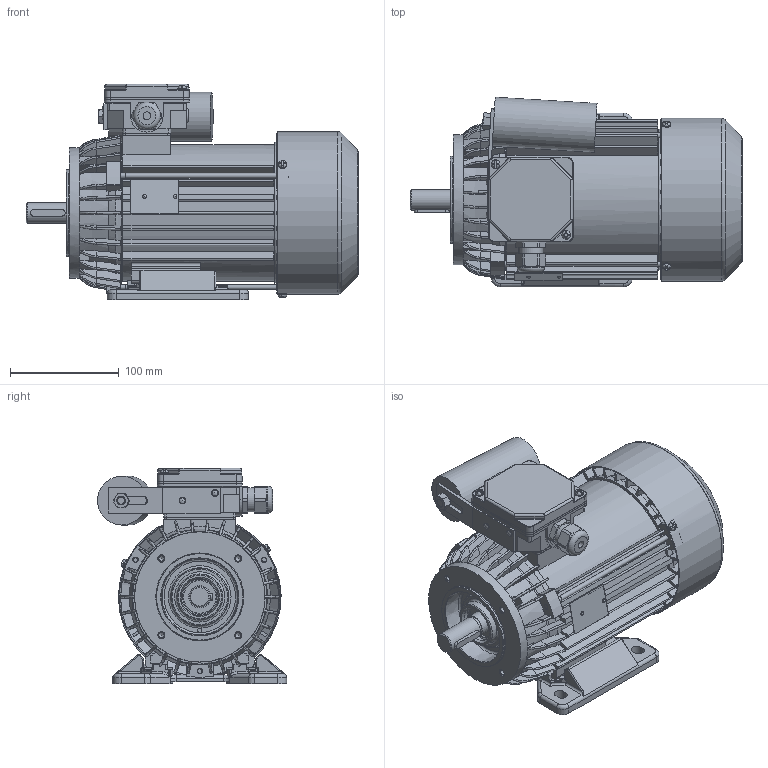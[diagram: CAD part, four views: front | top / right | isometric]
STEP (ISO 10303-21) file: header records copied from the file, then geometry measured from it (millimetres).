
FILE_DESCRIPTION( ( 'Unknown' ), '1' );
FILE_NAME( 'G:/Poczta Tk-1/STP/w.m.80/SEh80/SELh80-.C2.stp', 'Unknown', ( 'K. Szlosek' ), ( 'BESEL S.A.' ), 'PSStep 17.0.49', 'Unknown', ' ' );
FILE_SCHEMA( ( 'AUTOMOTIVE_DESIGN { 1 0 10303 214 1 1 1 1 }' ) );
Length unit declared in the file: millimetre
Products named in the file (34): Assem1; K1-1257 Kadłub S(E,M)h80-C i D; K2-2027 Tarcza łożyskowa P S(E,M)h80-.A,C; Wkręt samogwintujący M4x16; Wkręt samogwintujący M4x10; K4-2999 Uchwyt kondensatora; K3-7039 wał standard Sh80-C; K4-4489 Osłona przewietrznika Sh80,90-A,C; K4-2320 Uszczelka nr 1 Sh71,80; K4-2820 Uszczelka nr 2 Sh71,80; K2-0860 Pokrywka skrzynki zaciskowej; K2-1131 Podstawa skrzynki zaciskowej jednofazowa; Wpust A6x6x32; K2-1715 Przewietrznik; K4-0898 Tulejka uszczelniająca; Kondensator zb 25-31,5uF Comar; nakrętka M8; Nit 4x12 po skróceniu; Nitokołek A 2x6; Łożysko 6204; Śruba ściągająca E_M5x168; Tabliczka znamionowa 32x44; K1-1261 Tarcza kołnierzowa B14_2 w.m. 80; K1-0437 Łapa Sh80-.. ; Dławnica M20x1,5
Assembly tree (50 placements, depth 2):
  Assem1
    K1-1257 Kadłub S(E,M)h80-C i D
    K2-2027 Tarcza łożyskowa P S(E,M)h80-.A,C
    Wkręt samogwintujący M4x16  x2
    Wkręt samogwintujący M4x10  x3
    K4-2999 Uchwyt kondensatora
    K3-7039 wał standard Sh80-C
    K4-4489 Osłona przewietrznika Sh80,90-A,C
    K4-2320 Uszczelka nr 1 Sh71,80
    K4-2820 Uszczelka nr 2 Sh71,80
    K2-0860 Pokrywka skrzynki zaciskowej
    K2-1131 Podstawa skrzynki zaciskowej jednofazowa
    Wpust A6x6x32
    K2-1715 Przewietrznik
    K4-0898 Tulejka uszczelniająca
    Kondensator zb 25-31,5uF Comar
    nakrętka M8
    Nit 4x12 po skróceniu  x2
    Nitokołek A 2x6  x2
    Łożysko 6204  x2
    Łożysko 6204  x2
    Łożysko 6204  x2
    Łożysko 6204  x2
    Łożysko 6204  x2
    Łożysko 6204  x2
    Łożysko 6204  x2
    Łożysko 6204  x2
    Łożysko 6204  x2
    Łożysko 6204  x2
    Śruba ściągająca E_M5x168  x3
    Tabliczka znamionowa 32x44
    K1-1261 Tarcza kołnierzowa B14_2 w.m. 80
    K1-0437 Łapa Sh80-.. 
    Dławnica M20x1,5
Bounding box: 305.8 x 174.3 x 198.5 mm (x, y, z)
Volume: 1218329.9 mm3; surface area: 645317.3 mm2
Topology: 50 solids, 66 shells, 2888 faces, 8102 edges, 5187 vertices
Faces by surface type: plane 1365, cylinder 911, bspline 297, cone 142, torus 137, sphere 36
Full cylindrical faces by diameter (mm): 2 x2, 2.4 x2, 3 x2, 3.7 x11, 4 x8, 4.2 x3, 4.3 x2, 4.5 x3, 4.6 x3, 4.8 x4, 5 x11, 5.5 x3, 6 x2, 6.5 x5, 6.647 x1, 7 x1, 8 x10, 10 x2, 18.376 x1, 18.38 x1, 18.6 x1, 19 x1, 19.3 x1, 19.5 x2, 19.9 x1, 20 x5, 20.3 x2, 20.4 x4, 22.3 x1, 25 x1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
Entity records: 135860 total; most frequent: CARTESIAN_POINT 47768, ORIENTED_EDGE 14372, DIRECTION 13424, EDGE_CURVE 7186, AXIS2_PLACEMENT_3D 4916, VERTEX_POINT 4800, LINE 3592, VECTOR 3592
